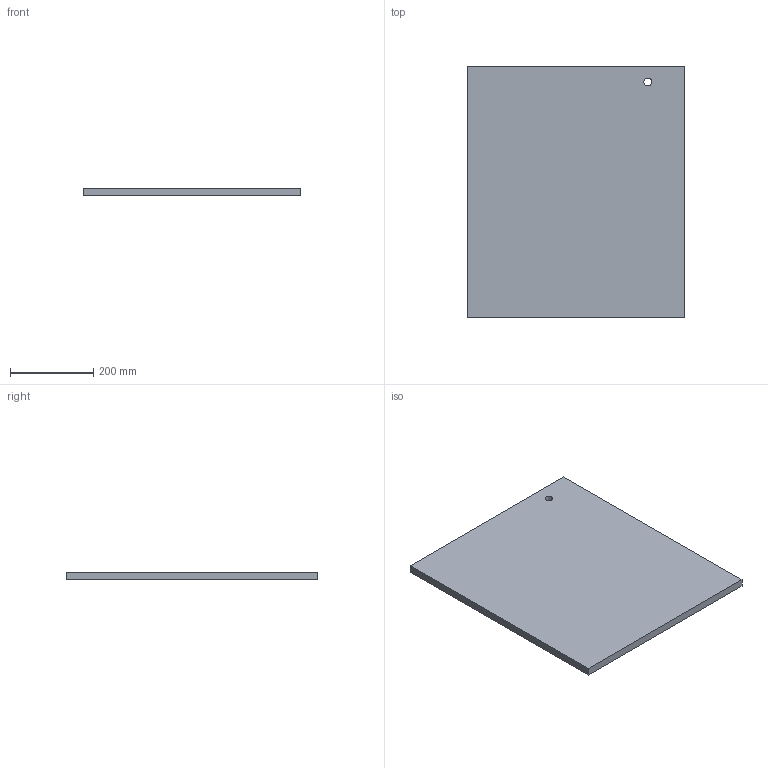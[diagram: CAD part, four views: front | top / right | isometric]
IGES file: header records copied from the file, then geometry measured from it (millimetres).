
Start section:  PTC IGES file: l5_3343w_door_l.igs
Global section: file name: l5_3343w_door_l.igs; native system: Creo Parametric by Parametric Technology Corporation; preprocessor: 2014310; author: apappas; organization: Unknown; date: 20150316.083737; units: inch
Bounding box: 523.08 x 604.84 x 19.05 mm (x, y, z)
Volume: 5994706.7 mm3; surface area: 680365.7 mm2
Topology: 1 solids, 1 shells, 26 faces, 54 edges, 36 vertices
Faces by surface type: bspline 26
